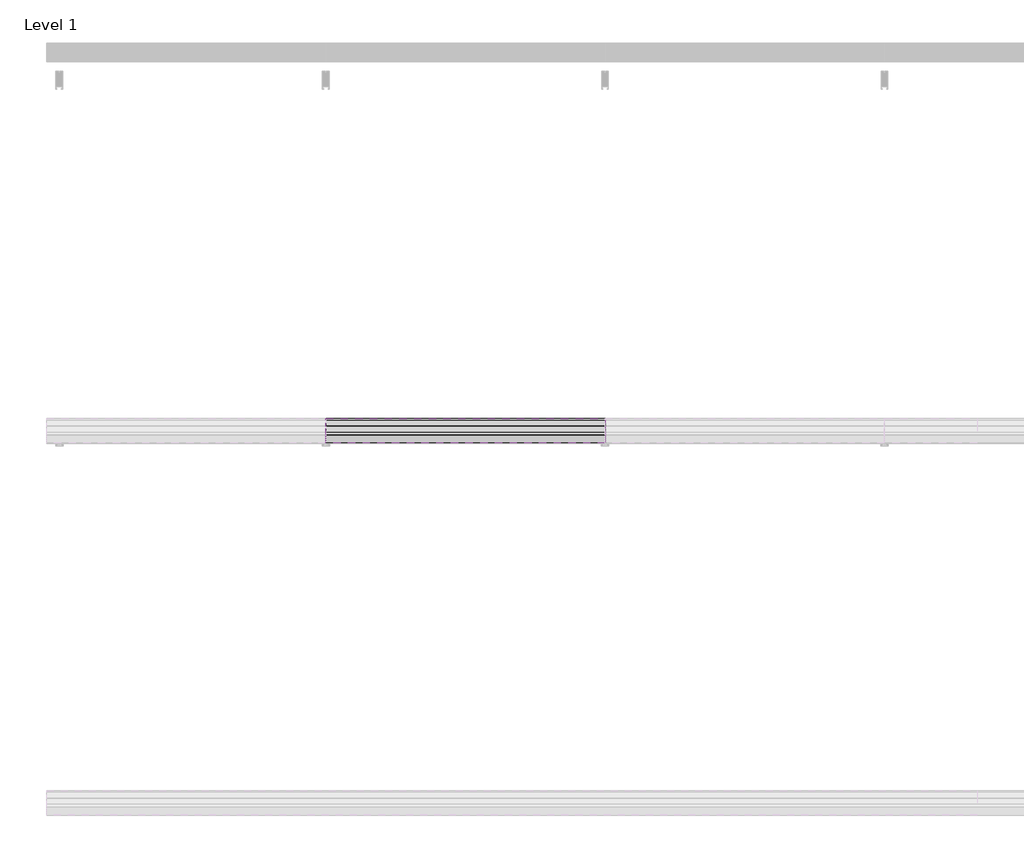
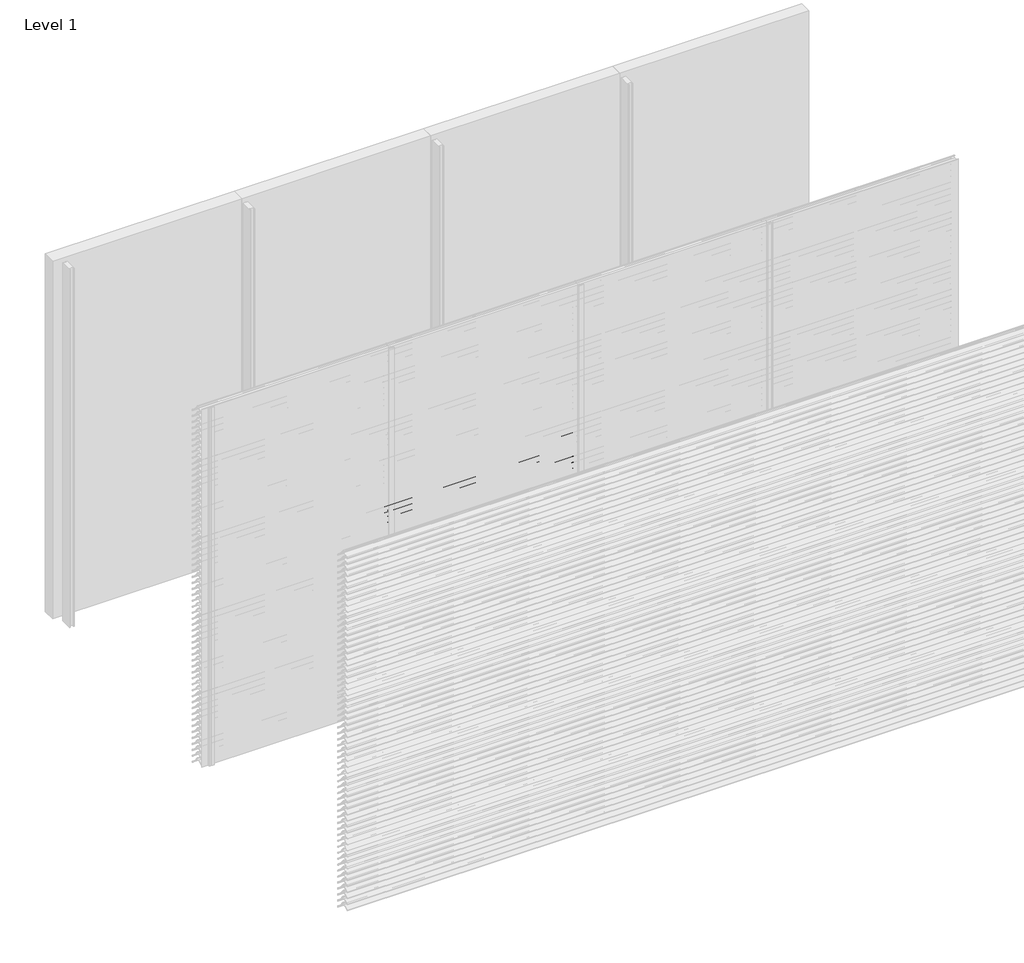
# One storey, part 97 of 173: 17 proxies.
"""IFC4 building model written with IfcOpenShell, lengths in millimetres."""

from ifc_helpers import new_model, si_unit, point, frame, frame_2d, origin, place, context, project, spatial, polyline, circle_curve, trimmed, segment, composite_curve, outline, extrude, element, save

model = new_model("IFC4")

# Units and contexts
model_context = context("Model", 3, world=origin())
ifc_project = project(units=[si_unit("LENGTHUNIT", "METRE", prefix="MILLI")], contexts=[model_context])

# Site, building, storey
site = spatial("IfcSite", under=ifc_project)
building = spatial("IfcBuilding", under=site)
storey = spatial("IfcBuildingStorey", under=building, Name="Level 1", Elevation=0.0)

# Proxies
placement = place(None, origin())
element("IfcBuildingElementProxy", 1, Name="Wall Sweeps", at=placement, inside=storey, context=model_context, shape_type="SweptSolid", body=[
    extrude(outline(composite_curve([segment(polyline([(-23998.0, 1709.1474905), (-23998.0, 1711.6227417)]), True, "CONTINUOUS"), segment(trimmed(circle_curve(frame_2d((-23951.2682172, 1666.2200208)), 65.1557103), [point((-23998.0, 1711.6227417))], [point((-23954.4014323, 1731.3003524))], False, "CARTESIAN"), True, "CONTINUOUS"), segment(polyline([(-23954.4014323, 1731.3003524), (-23934.8315836, 1731.3003524)]), True, "CONTINUOUS"), segment(trimmed(circle_curve(frame_2d((-23732.7329489, 1878.5533172)), 250.0545817), [point((-23934.8315836, 1731.3003524))], [point((-23941.4452143, 1740.8344583))], False, "CARTESIAN"), True, "CONTINUOUS"), segment(trimmed(circle_curve(frame_2d((-23953.2981792, 1735.1737835)), 13.1352966), [point((-23941.4452143, 1740.8344583))], [point((-23953.8171475, 1748.298824))], True, "CARTESIAN"), True, "CONTINUOUS"), segment(polyline([(-23953.8171475, 1748.298824), (-23953.8171475, 1750.0)]), True, "CONTINUOUS"), segment(trimmed(circle_curve(frame_2d((-23953.2981792, 1735.1737835)), 14.8352966), [point((-23953.8171475, 1750.0))], [point((-23939.9637661, 1741.6760487))], False, "CARTESIAN"), True, "CONTINUOUS"), segment(trimmed(circle_curve(frame_2d((-23732.7329489, 1878.5533172)), 248.3545817), [point((-23939.9637661, 1741.6760487))], [point((-23873.8787895, 1674.2059416))], True, "CARTESIAN"), True, "CONTINUOUS"), segment(trimmed(circle_curve(frame_2d((-23883.8147537, 1661.6649442)), 16.0), [point((-23873.8787895, 1674.2059416))], [point((-23867.8648347, 1660.4))], False, "CARTESIAN"), True, "CONTINUOUS"), segment(polyline([(-23867.8648347, 1660.4), (-23869.6712069, 1660.4)]), True, "CONTINUOUS"), segment(trimmed(circle_curve(frame_2d((-23883.8147537, 1661.6649442)), 14.2), [point((-23869.6712069, 1660.4))], [point((-23874.9518628, 1672.7594998))], True, "CARTESIAN"), True, "CONTINUOUS"), segment(trimmed(circle_curve(frame_2d((-23732.7329489, 1878.5533172)), 250.1545817), [point((-23874.9518628, 1672.7594998))], [point((-23933.7064024, 1729.6003524))], False, "CARTESIAN"), True, "CONTINUOUS"), segment(polyline([(-23933.7064024, 1729.6003524), (-23954.3602632, 1729.6003524)]), True, "CONTINUOUS"), segment(trimmed(circle_curve(frame_2d((-23951.2682172, 1666.2200208)), 63.4557103), [point((-23954.3602632, 1729.6003524))], [point((-23998.0, 1709.1474905))], True, "CARTESIAN"), True, "CONTINUOUS")], self_intersect=False)), frame((1500.0, 0.0, 0.0), z_axis=(1.0, 0.0, 0.0), x_axis=(0.0, 1.0, 0.0)), (0.0, 0.0, 1.0), 1500.0),
])
element("IfcBuildingElementProxy", 2, Name="Wall Sweeps", at=placement, inside=storey, context=model_context, shape_type="SweptSolid", body=[
    extrude(outline(composite_curve([segment(polyline([(-23998.0, 1659.1474905), (-23998.0, 1661.6227417)]), True, "CONTINUOUS"), segment(trimmed(circle_curve(frame_2d((-23951.2682172, 1616.2200208)), 65.1557103), [point((-23998.0, 1661.6227417))], [point((-23954.4014323, 1681.3003524))], False, "CARTESIAN"), True, "CONTINUOUS"), segment(polyline([(-23954.4014323, 1681.3003524), (-23934.8315836, 1681.3003524)]), True, "CONTINUOUS"), segment(trimmed(circle_curve(frame_2d((-23732.7329489, 1828.5533172)), 250.0545817), [point((-23934.8315836, 1681.3003524))], [point((-23941.4452143, 1690.8344583))], False, "CARTESIAN"), True, "CONTINUOUS"), segment(trimmed(circle_curve(frame_2d((-23953.2981792, 1685.1737835)), 13.1352966), [point((-23941.4452143, 1690.8344583))], [point((-23953.8171475, 1698.298824))], True, "CARTESIAN"), True, "CONTINUOUS"), segment(polyline([(-23953.8171475, 1698.298824), (-23953.8171475, 1700.0)]), True, "CONTINUOUS"), segment(trimmed(circle_curve(frame_2d((-23953.2981792, 1685.1737835)), 14.8352966), [point((-23953.8171475, 1700.0))], [point((-23939.9637661, 1691.6760487))], False, "CARTESIAN"), True, "CONTINUOUS"), segment(trimmed(circle_curve(frame_2d((-23732.7329489, 1828.5533172)), 248.3545817), [point((-23939.9637661, 1691.6760487))], [point((-23873.8787895, 1624.2059416))], True, "CARTESIAN"), True, "CONTINUOUS"), segment(trimmed(circle_curve(frame_2d((-23883.8147537, 1611.6649442)), 16.0), [point((-23873.8787895, 1624.2059416))], [point((-23867.8648347, 1610.4))], False, "CARTESIAN"), True, "CONTINUOUS"), segment(polyline([(-23867.8648347, 1610.4), (-23869.6712069, 1610.4)]), True, "CONTINUOUS"), segment(trimmed(circle_curve(frame_2d((-23883.8147537, 1611.6649442)), 14.2), [point((-23869.6712069, 1610.4))], [point((-23874.9518628, 1622.7594998))], True, "CARTESIAN"), True, "CONTINUOUS"), segment(trimmed(circle_curve(frame_2d((-23732.7329489, 1828.5533172)), 250.1545817), [point((-23874.9518628, 1622.7594998))], [point((-23933.7064024, 1679.6003524))], False, "CARTESIAN"), True, "CONTINUOUS"), segment(polyline([(-23933.7064024, 1679.6003524), (-23954.3602632, 1679.6003524)]), True, "CONTINUOUS"), segment(trimmed(circle_curve(frame_2d((-23951.2682172, 1616.2200208)), 63.4557103), [point((-23954.3602632, 1679.6003524))], [point((-23998.0, 1659.1474905))], True, "CARTESIAN"), True, "CONTINUOUS")], self_intersect=False)), frame((1500.0, 0.0, 0.0), z_axis=(1.0, 0.0, 0.0), x_axis=(0.0, 1.0, 0.0)), (0.0, 0.0, 1.0), 1500.0),
])
element("IfcBuildingElementProxy", 3, Name="Wall Sweeps", at=placement, inside=storey, context=model_context, shape_type="SweptSolid", body=[
    extrude(outline(composite_curve([segment(polyline([(-23998.0, 1609.1474905), (-23998.0, 1611.6227417)]), True, "CONTINUOUS"), segment(trimmed(circle_curve(frame_2d((-23951.2682172, 1566.2200208)), 65.1557103), [point((-23998.0, 1611.6227417))], [point((-23954.4014323, 1631.3003524))], False, "CARTESIAN"), True, "CONTINUOUS"), segment(polyline([(-23954.4014323, 1631.3003524), (-23934.8315836, 1631.3003524)]), True, "CONTINUOUS"), segment(trimmed(circle_curve(frame_2d((-23732.7329489, 1778.5533172)), 250.0545817), [point((-23934.8315836, 1631.3003524))], [point((-23941.4452143, 1640.8344583))], False, "CARTESIAN"), True, "CONTINUOUS"), segment(trimmed(circle_curve(frame_2d((-23953.2981792, 1635.1737835)), 13.1352966), [point((-23941.4452143, 1640.8344583))], [point((-23953.8171475, 1648.298824))], True, "CARTESIAN"), True, "CONTINUOUS"), segment(polyline([(-23953.8171475, 1648.298824), (-23953.8171475, 1650.0)]), True, "CONTINUOUS"), segment(trimmed(circle_curve(frame_2d((-23953.2981792, 1635.1737835)), 14.8352966), [point((-23953.8171475, 1650.0))], [point((-23939.9637661, 1641.6760487))], False, "CARTESIAN"), True, "CONTINUOUS"), segment(trimmed(circle_curve(frame_2d((-23732.7329489, 1778.5533172)), 248.3545817), [point((-23939.9637661, 1641.6760487))], [point((-23873.8787895, 1574.2059416))], True, "CARTESIAN"), True, "CONTINUOUS"), segment(trimmed(circle_curve(frame_2d((-23883.8147537, 1561.6649442)), 16.0), [point((-23873.8787895, 1574.2059416))], [point((-23867.8648347, 1560.4))], False, "CARTESIAN"), True, "CONTINUOUS"), segment(polyline([(-23867.8648347, 1560.4), (-23869.6712069, 1560.4)]), True, "CONTINUOUS"), segment(trimmed(circle_curve(frame_2d((-23883.8147537, 1561.6649442)), 14.2), [point((-23869.6712069, 1560.4))], [point((-23874.9518628, 1572.7594998))], True, "CARTESIAN"), True, "CONTINUOUS"), segment(trimmed(circle_curve(frame_2d((-23732.7329489, 1778.5533172)), 250.1545817), [point((-23874.9518628, 1572.7594998))], [point((-23933.7064024, 1629.6003524))], False, "CARTESIAN"), True, "CONTINUOUS"), segment(polyline([(-23933.7064024, 1629.6003524), (-23954.3602632, 1629.6003524)]), True, "CONTINUOUS"), segment(trimmed(circle_curve(frame_2d((-23951.2682172, 1566.2200208)), 63.4557103), [point((-23954.3602632, 1629.6003524))], [point((-23998.0, 1609.1474905))], True, "CARTESIAN"), True, "CONTINUOUS")], self_intersect=False)), frame((1500.0, 0.0, 0.0), z_axis=(1.0, 0.0, 0.0), x_axis=(0.0, 1.0, 0.0)), (0.0, 0.0, 1.0), 1500.0),
])
element("IfcBuildingElementProxy", 4, Name="Wall Sweeps", at=placement, inside=storey, context=model_context, shape_type="SweptSolid", body=[
    extrude(outline(composite_curve([segment(polyline([(-23998.0, 1559.1474905), (-23998.0, 1561.6227417)]), True, "CONTINUOUS"), segment(trimmed(circle_curve(frame_2d((-23951.2682172, 1516.2200208)), 65.1557103), [point((-23998.0, 1561.6227417))], [point((-23954.4014323, 1581.3003524))], False, "CARTESIAN"), True, "CONTINUOUS"), segment(polyline([(-23954.4014323, 1581.3003524), (-23934.8315836, 1581.3003524)]), True, "CONTINUOUS"), segment(trimmed(circle_curve(frame_2d((-23732.7329489, 1728.5533172)), 250.0545817), [point((-23934.8315836, 1581.3003524))], [point((-23941.4452143, 1590.8344583))], False, "CARTESIAN"), True, "CONTINUOUS"), segment(trimmed(circle_curve(frame_2d((-23953.2981792, 1585.1737835)), 13.1352966), [point((-23941.4452143, 1590.8344583))], [point((-23953.8171475, 1598.298824))], True, "CARTESIAN"), True, "CONTINUOUS"), segment(polyline([(-23953.8171475, 1598.298824), (-23953.8171475, 1600.0)]), True, "CONTINUOUS"), segment(trimmed(circle_curve(frame_2d((-23953.2981792, 1585.1737835)), 14.8352966), [point((-23953.8171475, 1600.0))], [point((-23939.9637661, 1591.6760487))], False, "CARTESIAN"), True, "CONTINUOUS"), segment(trimmed(circle_curve(frame_2d((-23732.7329489, 1728.5533172)), 248.3545817), [point((-23939.9637661, 1591.6760487))], [point((-23873.8787895, 1524.2059416))], True, "CARTESIAN"), True, "CONTINUOUS"), segment(trimmed(circle_curve(frame_2d((-23883.8147537, 1511.6649442)), 16.0), [point((-23873.8787895, 1524.2059416))], [point((-23867.8648347, 1510.4))], False, "CARTESIAN"), True, "CONTINUOUS"), segment(polyline([(-23867.8648347, 1510.4), (-23869.6712069, 1510.4)]), True, "CONTINUOUS"), segment(trimmed(circle_curve(frame_2d((-23883.8147537, 1511.6649442)), 14.2), [point((-23869.6712069, 1510.4))], [point((-23874.9518628, 1522.7594998))], True, "CARTESIAN"), True, "CONTINUOUS"), segment(trimmed(circle_curve(frame_2d((-23732.7329489, 1728.5533172)), 250.1545817), [point((-23874.9518628, 1522.7594998))], [point((-23933.7064024, 1579.6003524))], False, "CARTESIAN"), True, "CONTINUOUS"), segment(polyline([(-23933.7064024, 1579.6003524), (-23954.3602632, 1579.6003524)]), True, "CONTINUOUS"), segment(trimmed(circle_curve(frame_2d((-23951.2682172, 1516.2200208)), 63.4557103), [point((-23954.3602632, 1579.6003524))], [point((-23998.0, 1559.1474905))], True, "CARTESIAN"), True, "CONTINUOUS")], self_intersect=False)), frame((1500.0, 0.0, 0.0), z_axis=(1.0, 0.0, 0.0), x_axis=(0.0, 1.0, 0.0)), (0.0, 0.0, 1.0), 1500.0),
])
element("IfcBuildingElementProxy", 5, Name="Wall Sweeps", at=placement, inside=storey, context=model_context, shape_type="SweptSolid", body=[
    extrude(outline(composite_curve([segment(polyline([(-23998.0, 1509.1474905), (-23998.0, 1511.6227417)]), True, "CONTINUOUS"), segment(trimmed(circle_curve(frame_2d((-23951.2682172, 1466.2200208)), 65.1557103), [point((-23998.0, 1511.6227417))], [point((-23954.4014323, 1531.3003524))], False, "CARTESIAN"), True, "CONTINUOUS"), segment(polyline([(-23954.4014323, 1531.3003524), (-23934.8315836, 1531.3003524)]), True, "CONTINUOUS"), segment(trimmed(circle_curve(frame_2d((-23732.7329489, 1678.5533172)), 250.0545817), [point((-23934.8315836, 1531.3003524))], [point((-23941.4452143, 1540.8344583))], False, "CARTESIAN"), True, "CONTINUOUS"), segment(trimmed(circle_curve(frame_2d((-23953.2981792, 1535.1737835)), 13.1352966), [point((-23941.4452143, 1540.8344583))], [point((-23953.8171475, 1548.298824))], True, "CARTESIAN"), True, "CONTINUOUS"), segment(polyline([(-23953.8171475, 1548.298824), (-23953.8171475, 1550.0)]), True, "CONTINUOUS"), segment(trimmed(circle_curve(frame_2d((-23953.2981792, 1535.1737835)), 14.8352966), [point((-23953.8171475, 1550.0))], [point((-23939.9637661, 1541.6760487))], False, "CARTESIAN"), True, "CONTINUOUS"), segment(trimmed(circle_curve(frame_2d((-23732.7329489, 1678.5533172)), 248.3545817), [point((-23939.9637661, 1541.6760487))], [point((-23873.8787895, 1474.2059416))], True, "CARTESIAN"), True, "CONTINUOUS"), segment(trimmed(circle_curve(frame_2d((-23883.8147537, 1461.6649442)), 16.0), [point((-23873.8787895, 1474.2059416))], [point((-23867.8648347, 1460.4))], False, "CARTESIAN"), True, "CONTINUOUS"), segment(polyline([(-23867.8648347, 1460.4), (-23869.6712069, 1460.4)]), True, "CONTINUOUS"), segment(trimmed(circle_curve(frame_2d((-23883.8147537, 1461.6649442)), 14.2), [point((-23869.6712069, 1460.4))], [point((-23874.9518628, 1472.7594998))], True, "CARTESIAN"), True, "CONTINUOUS"), segment(trimmed(circle_curve(frame_2d((-23732.7329489, 1678.5533172)), 250.1545817), [point((-23874.9518628, 1472.7594998))], [point((-23933.7064024, 1529.6003524))], False, "CARTESIAN"), True, "CONTINUOUS"), segment(polyline([(-23933.7064024, 1529.6003524), (-23954.3602632, 1529.6003524)]), True, "CONTINUOUS"), segment(trimmed(circle_curve(frame_2d((-23951.2682172, 1466.2200208)), 63.4557103), [point((-23954.3602632, 1529.6003524))], [point((-23998.0, 1509.1474905))], True, "CARTESIAN"), True, "CONTINUOUS")], self_intersect=False)), frame((1500.0, 0.0, 0.0), z_axis=(1.0, 0.0, 0.0), x_axis=(0.0, 1.0, 0.0)), (0.0, 0.0, 1.0), 1500.0),
])
element("IfcBuildingElementProxy", 6, Name="Wall Sweeps", at=placement, inside=storey, context=model_context, shape_type="SweptSolid", body=[
    extrude(outline(composite_curve([segment(polyline([(-23998.0, 1459.1474905), (-23998.0, 1461.6227417)]), True, "CONTINUOUS"), segment(trimmed(circle_curve(frame_2d((-23951.2682172, 1416.2200208)), 65.1557103), [point((-23998.0, 1461.6227417))], [point((-23954.4014323, 1481.3003524))], False, "CARTESIAN"), True, "CONTINUOUS"), segment(polyline([(-23954.4014323, 1481.3003524), (-23934.8315836, 1481.3003524)]), True, "CONTINUOUS"), segment(trimmed(circle_curve(frame_2d((-23732.7329489, 1628.5533172)), 250.0545817), [point((-23934.8315836, 1481.3003524))], [point((-23941.4452143, 1490.8344583))], False, "CARTESIAN"), True, "CONTINUOUS"), segment(trimmed(circle_curve(frame_2d((-23953.2981792, 1485.1737835)), 13.1352966), [point((-23941.4452143, 1490.8344583))], [point((-23953.8171475, 1498.298824))], True, "CARTESIAN"), True, "CONTINUOUS"), segment(polyline([(-23953.8171475, 1498.298824), (-23953.8171475, 1500.0)]), True, "CONTINUOUS"), segment(trimmed(circle_curve(frame_2d((-23953.2981792, 1485.1737835)), 14.8352966), [point((-23953.8171475, 1500.0))], [point((-23939.9637661, 1491.6760487))], False, "CARTESIAN"), True, "CONTINUOUS"), segment(trimmed(circle_curve(frame_2d((-23732.7329489, 1628.5533172)), 248.3545817), [point((-23939.9637661, 1491.6760487))], [point((-23873.8787895, 1424.2059416))], True, "CARTESIAN"), True, "CONTINUOUS"), segment(trimmed(circle_curve(frame_2d((-23883.8147537, 1411.6649442)), 16.0), [point((-23873.8787895, 1424.2059416))], [point((-23867.8648347, 1410.4))], False, "CARTESIAN"), True, "CONTINUOUS"), segment(polyline([(-23867.8648347, 1410.4), (-23869.6712069, 1410.4)]), True, "CONTINUOUS"), segment(trimmed(circle_curve(frame_2d((-23883.8147537, 1411.6649442)), 14.2), [point((-23869.6712069, 1410.4))], [point((-23874.9518628, 1422.7594998))], True, "CARTESIAN"), True, "CONTINUOUS"), segment(trimmed(circle_curve(frame_2d((-23732.7329489, 1628.5533172)), 250.1545817), [point((-23874.9518628, 1422.7594998))], [point((-23933.7064024, 1479.6003524))], False, "CARTESIAN"), True, "CONTINUOUS"), segment(polyline([(-23933.7064024, 1479.6003524), (-23954.3602632, 1479.6003524)]), True, "CONTINUOUS"), segment(trimmed(circle_curve(frame_2d((-23951.2682172, 1416.2200208)), 63.4557103), [point((-23954.3602632, 1479.6003524))], [point((-23998.0, 1459.1474905))], True, "CARTESIAN"), True, "CONTINUOUS")], self_intersect=False)), frame((1500.0, 0.0, 0.0), z_axis=(1.0, 0.0, 0.0), x_axis=(0.0, 1.0, 0.0)), (0.0, 0.0, 1.0), 1500.0),
])
element("IfcBuildingElementProxy", 7, Name="Wall Sweeps", at=placement, inside=storey, context=model_context, shape_type="SweptSolid", body=[
    extrude(outline(composite_curve([segment(polyline([(-23998.0, 1409.1474905), (-23998.0, 1411.6227417)]), True, "CONTINUOUS"), segment(trimmed(circle_curve(frame_2d((-23951.2682172, 1366.2200208)), 65.1557103), [point((-23998.0, 1411.6227417))], [point((-23954.4014323, 1431.3003524))], False, "CARTESIAN"), True, "CONTINUOUS"), segment(polyline([(-23954.4014323, 1431.3003524), (-23934.8315836, 1431.3003524)]), True, "CONTINUOUS"), segment(trimmed(circle_curve(frame_2d((-23732.7329489, 1578.5533172)), 250.0545817), [point((-23934.8315836, 1431.3003524))], [point((-23941.4452143, 1440.8344583))], False, "CARTESIAN"), True, "CONTINUOUS"), segment(trimmed(circle_curve(frame_2d((-23953.2981792, 1435.1737835)), 13.1352966), [point((-23941.4452143, 1440.8344583))], [point((-23953.8171475, 1448.298824))], True, "CARTESIAN"), True, "CONTINUOUS"), segment(polyline([(-23953.8171475, 1448.298824), (-23953.8171475, 1450.0)]), True, "CONTINUOUS"), segment(trimmed(circle_curve(frame_2d((-23953.2981792, 1435.1737835)), 14.8352966), [point((-23953.8171475, 1450.0))], [point((-23939.9637661, 1441.6760487))], False, "CARTESIAN"), True, "CONTINUOUS"), segment(trimmed(circle_curve(frame_2d((-23732.7329489, 1578.5533172)), 248.3545817), [point((-23939.9637661, 1441.6760487))], [point((-23873.8787895, 1374.2059416))], True, "CARTESIAN"), True, "CONTINUOUS"), segment(trimmed(circle_curve(frame_2d((-23883.8147537, 1361.6649442)), 16.0), [point((-23873.8787895, 1374.2059416))], [point((-23867.8648347, 1360.4))], False, "CARTESIAN"), True, "CONTINUOUS"), segment(polyline([(-23867.8648347, 1360.4), (-23869.6712069, 1360.4)]), True, "CONTINUOUS"), segment(trimmed(circle_curve(frame_2d((-23883.8147537, 1361.6649442)), 14.2), [point((-23869.6712069, 1360.4))], [point((-23874.9518628, 1372.7594998))], True, "CARTESIAN"), True, "CONTINUOUS"), segment(trimmed(circle_curve(frame_2d((-23732.7329489, 1578.5533172)), 250.1545817), [point((-23874.9518628, 1372.7594998))], [point((-23933.7064024, 1429.6003524))], False, "CARTESIAN"), True, "CONTINUOUS"), segment(polyline([(-23933.7064024, 1429.6003524), (-23954.3602632, 1429.6003524)]), True, "CONTINUOUS"), segment(trimmed(circle_curve(frame_2d((-23951.2682172, 1366.2200208)), 63.4557103), [point((-23954.3602632, 1429.6003524))], [point((-23998.0, 1409.1474905))], True, "CARTESIAN"), True, "CONTINUOUS")], self_intersect=False)), frame((1500.0, 0.0, 0.0), z_axis=(1.0, 0.0, 0.0), x_axis=(0.0, 1.0, 0.0)), (0.0, 0.0, 1.0), 1500.0),
])
element("IfcBuildingElementProxy", 8, Name="Wall Sweeps", at=placement, inside=storey, context=model_context, shape_type="SweptSolid", body=[
    extrude(outline(composite_curve([segment(polyline([(-23998.0, 1359.1474905), (-23998.0, 1361.6227417)]), True, "CONTINUOUS"), segment(trimmed(circle_curve(frame_2d((-23951.2682172, 1316.2200208)), 65.1557103), [point((-23998.0, 1361.6227417))], [point((-23954.4014323, 1381.3003524))], False, "CARTESIAN"), True, "CONTINUOUS"), segment(polyline([(-23954.4014323, 1381.3003524), (-23934.8315836, 1381.3003524)]), True, "CONTINUOUS"), segment(trimmed(circle_curve(frame_2d((-23732.7329489, 1528.5533172)), 250.0545817), [point((-23934.8315836, 1381.3003524))], [point((-23941.4452143, 1390.8344583))], False, "CARTESIAN"), True, "CONTINUOUS"), segment(trimmed(circle_curve(frame_2d((-23953.2981792, 1385.1737835)), 13.1352966), [point((-23941.4452143, 1390.8344583))], [point((-23953.8171475, 1398.298824))], True, "CARTESIAN"), True, "CONTINUOUS"), segment(polyline([(-23953.8171475, 1398.298824), (-23953.8171475, 1400.0)]), True, "CONTINUOUS"), segment(trimmed(circle_curve(frame_2d((-23953.2981792, 1385.1737835)), 14.8352966), [point((-23953.8171475, 1400.0))], [point((-23939.9637661, 1391.6760487))], False, "CARTESIAN"), True, "CONTINUOUS"), segment(trimmed(circle_curve(frame_2d((-23732.7329489, 1528.5533172)), 248.3545817), [point((-23939.9637661, 1391.6760487))], [point((-23873.8787895, 1324.2059416))], True, "CARTESIAN"), True, "CONTINUOUS"), segment(trimmed(circle_curve(frame_2d((-23883.8147537, 1311.6649442)), 16.0), [point((-23873.8787895, 1324.2059416))], [point((-23867.8648347, 1310.4))], False, "CARTESIAN"), True, "CONTINUOUS"), segment(polyline([(-23867.8648347, 1310.4), (-23869.6712069, 1310.4)]), True, "CONTINUOUS"), segment(trimmed(circle_curve(frame_2d((-23883.8147537, 1311.6649442)), 14.2), [point((-23869.6712069, 1310.4))], [point((-23874.9518628, 1322.7594998))], True, "CARTESIAN"), True, "CONTINUOUS"), segment(trimmed(circle_curve(frame_2d((-23732.7329489, 1528.5533172)), 250.1545817), [point((-23874.9518628, 1322.7594998))], [point((-23933.7064024, 1379.6003524))], False, "CARTESIAN"), True, "CONTINUOUS"), segment(polyline([(-23933.7064024, 1379.6003524), (-23954.3602632, 1379.6003524)]), True, "CONTINUOUS"), segment(trimmed(circle_curve(frame_2d((-23951.2682172, 1316.2200208)), 63.4557103), [point((-23954.3602632, 1379.6003524))], [point((-23998.0, 1359.1474905))], True, "CARTESIAN"), True, "CONTINUOUS")], self_intersect=False)), frame((1500.0, 0.0, 0.0), z_axis=(1.0, 0.0, 0.0), x_axis=(0.0, 1.0, 0.0)), (0.0, 0.0, 1.0), 1500.0),
])
element("IfcBuildingElementProxy", 9, Name="Wall Sweeps", at=placement, inside=storey, context=model_context, shape_type="SweptSolid", body=[
    extrude(outline(composite_curve([segment(polyline([(-23998.0, 1309.1474905), (-23998.0, 1311.6227417)]), True, "CONTINUOUS"), segment(trimmed(circle_curve(frame_2d((-23951.2682172, 1266.2200208)), 65.1557103), [point((-23998.0, 1311.6227417))], [point((-23954.4014323, 1331.3003524))], False, "CARTESIAN"), True, "CONTINUOUS"), segment(polyline([(-23954.4014323, 1331.3003524), (-23934.8315836, 1331.3003524)]), True, "CONTINUOUS"), segment(trimmed(circle_curve(frame_2d((-23732.7329489, 1478.5533172)), 250.0545817), [point((-23934.8315836, 1331.3003524))], [point((-23941.4452143, 1340.8344583))], False, "CARTESIAN"), True, "CONTINUOUS"), segment(trimmed(circle_curve(frame_2d((-23953.2981792, 1335.1737835)), 13.1352966), [point((-23941.4452143, 1340.8344583))], [point((-23953.8171475, 1348.298824))], True, "CARTESIAN"), True, "CONTINUOUS"), segment(polyline([(-23953.8171475, 1348.298824), (-23953.8171475, 1350.0)]), True, "CONTINUOUS"), segment(trimmed(circle_curve(frame_2d((-23953.2981792, 1335.1737835)), 14.8352966), [point((-23953.8171475, 1350.0))], [point((-23939.9637661, 1341.6760487))], False, "CARTESIAN"), True, "CONTINUOUS"), segment(trimmed(circle_curve(frame_2d((-23732.7329489, 1478.5533172)), 248.3545817), [point((-23939.9637661, 1341.6760487))], [point((-23873.8787895, 1274.2059416))], True, "CARTESIAN"), True, "CONTINUOUS"), segment(trimmed(circle_curve(frame_2d((-23883.8147537, 1261.6649442)), 16.0), [point((-23873.8787895, 1274.2059416))], [point((-23867.8648347, 1260.4))], False, "CARTESIAN"), True, "CONTINUOUS"), segment(polyline([(-23867.8648347, 1260.4), (-23869.6712069, 1260.4)]), True, "CONTINUOUS"), segment(trimmed(circle_curve(frame_2d((-23883.8147537, 1261.6649442)), 14.2), [point((-23869.6712069, 1260.4))], [point((-23874.9518628, 1272.7594998))], True, "CARTESIAN"), True, "CONTINUOUS"), segment(trimmed(circle_curve(frame_2d((-23732.7329489, 1478.5533172)), 250.1545817), [point((-23874.9518628, 1272.7594998))], [point((-23933.7064024, 1329.6003524))], False, "CARTESIAN"), True, "CONTINUOUS"), segment(polyline([(-23933.7064024, 1329.6003524), (-23954.3602632, 1329.6003524)]), True, "CONTINUOUS"), segment(trimmed(circle_curve(frame_2d((-23951.2682172, 1266.2200208)), 63.4557103), [point((-23954.3602632, 1329.6003524))], [point((-23998.0, 1309.1474905))], True, "CARTESIAN"), True, "CONTINUOUS")], self_intersect=False)), frame((1500.0, 0.0, 0.0), z_axis=(1.0, 0.0, 0.0), x_axis=(0.0, 1.0, 0.0)), (0.0, 0.0, 1.0), 1500.0),
])
element("IfcBuildingElementProxy", 10, Name="Wall Sweeps", at=placement, inside=storey, context=model_context, shape_type="SweptSolid", body=[
    extrude(outline(composite_curve([segment(polyline([(-23998.0, 1259.1474905), (-23998.0, 1261.6227417)]), True, "CONTINUOUS"), segment(trimmed(circle_curve(frame_2d((-23951.2682172, 1216.2200208)), 65.1557103), [point((-23998.0, 1261.6227417))], [point((-23954.4014323, 1281.3003524))], False, "CARTESIAN"), True, "CONTINUOUS"), segment(polyline([(-23954.4014323, 1281.3003524), (-23934.8315836, 1281.3003524)]), True, "CONTINUOUS"), segment(trimmed(circle_curve(frame_2d((-23732.7329489, 1428.5533172)), 250.0545817), [point((-23934.8315836, 1281.3003524))], [point((-23941.4452143, 1290.8344583))], False, "CARTESIAN"), True, "CONTINUOUS"), segment(trimmed(circle_curve(frame_2d((-23953.2981792, 1285.1737835)), 13.1352966), [point((-23941.4452143, 1290.8344583))], [point((-23953.8171475, 1298.298824))], True, "CARTESIAN"), True, "CONTINUOUS"), segment(polyline([(-23953.8171475, 1298.298824), (-23953.8171475, 1300.0)]), True, "CONTINUOUS"), segment(trimmed(circle_curve(frame_2d((-23953.2981792, 1285.1737835)), 14.8352966), [point((-23953.8171475, 1300.0))], [point((-23939.9637661, 1291.6760487))], False, "CARTESIAN"), True, "CONTINUOUS"), segment(trimmed(circle_curve(frame_2d((-23732.7329489, 1428.5533172)), 248.3545817), [point((-23939.9637661, 1291.6760487))], [point((-23873.8787895, 1224.2059416))], True, "CARTESIAN"), True, "CONTINUOUS"), segment(trimmed(circle_curve(frame_2d((-23883.8147537, 1211.6649442)), 16.0), [point((-23873.8787895, 1224.2059416))], [point((-23867.8648347, 1210.4))], False, "CARTESIAN"), True, "CONTINUOUS"), segment(polyline([(-23867.8648347, 1210.4), (-23869.6712069, 1210.4)]), True, "CONTINUOUS"), segment(trimmed(circle_curve(frame_2d((-23883.8147537, 1211.6649442)), 14.2), [point((-23869.6712069, 1210.4))], [point((-23874.9518628, 1222.7594998))], True, "CARTESIAN"), True, "CONTINUOUS"), segment(trimmed(circle_curve(frame_2d((-23732.7329489, 1428.5533172)), 250.1545817), [point((-23874.9518628, 1222.7594998))], [point((-23933.7064024, 1279.6003524))], False, "CARTESIAN"), True, "CONTINUOUS"), segment(polyline([(-23933.7064024, 1279.6003524), (-23954.3602632, 1279.6003524)]), True, "CONTINUOUS"), segment(trimmed(circle_curve(frame_2d((-23951.2682172, 1216.2200208)), 63.4557103), [point((-23954.3602632, 1279.6003524))], [point((-23998.0, 1259.1474905))], True, "CARTESIAN"), True, "CONTINUOUS")], self_intersect=False)), frame((1500.0, 0.0, 0.0), z_axis=(1.0, 0.0, 0.0), x_axis=(0.0, 1.0, 0.0)), (0.0, 0.0, 1.0), 1500.0),
])
element("IfcBuildingElementProxy", 11, Name="Wall Sweeps", at=placement, inside=storey, context=model_context, shape_type="SweptSolid", body=[
    extrude(outline(composite_curve([segment(polyline([(-23998.0, 1209.1474905), (-23998.0, 1211.6227417)]), True, "CONTINUOUS"), segment(trimmed(circle_curve(frame_2d((-23951.2682172, 1166.2200208)), 65.1557103), [point((-23998.0, 1211.6227417))], [point((-23954.4014323, 1231.3003524))], False, "CARTESIAN"), True, "CONTINUOUS"), segment(polyline([(-23954.4014323, 1231.3003524), (-23934.8315836, 1231.3003524)]), True, "CONTINUOUS"), segment(trimmed(circle_curve(frame_2d((-23732.7329489, 1378.5533172)), 250.0545817), [point((-23934.8315836, 1231.3003524))], [point((-23941.4452143, 1240.8344583))], False, "CARTESIAN"), True, "CONTINUOUS"), segment(trimmed(circle_curve(frame_2d((-23953.2981792, 1235.1737835)), 13.1352966), [point((-23941.4452143, 1240.8344583))], [point((-23953.8171475, 1248.298824))], True, "CARTESIAN"), True, "CONTINUOUS"), segment(polyline([(-23953.8171475, 1248.298824), (-23953.8171475, 1250.0)]), True, "CONTINUOUS"), segment(trimmed(circle_curve(frame_2d((-23953.2981792, 1235.1737835)), 14.8352966), [point((-23953.8171475, 1250.0))], [point((-23939.9637661, 1241.6760487))], False, "CARTESIAN"), True, "CONTINUOUS"), segment(trimmed(circle_curve(frame_2d((-23732.7329489, 1378.5533172)), 248.3545817), [point((-23939.9637661, 1241.6760487))], [point((-23873.8787895, 1174.2059416))], True, "CARTESIAN"), True, "CONTINUOUS"), segment(trimmed(circle_curve(frame_2d((-23883.8147537, 1161.6649442)), 16.0), [point((-23873.8787895, 1174.2059416))], [point((-23867.8648347, 1160.4))], False, "CARTESIAN"), True, "CONTINUOUS"), segment(polyline([(-23867.8648347, 1160.4), (-23869.6712069, 1160.4)]), True, "CONTINUOUS"), segment(trimmed(circle_curve(frame_2d((-23883.8147537, 1161.6649442)), 14.2), [point((-23869.6712069, 1160.4))], [point((-23874.9518628, 1172.7594998))], True, "CARTESIAN"), True, "CONTINUOUS"), segment(trimmed(circle_curve(frame_2d((-23732.7329489, 1378.5533172)), 250.1545817), [point((-23874.9518628, 1172.7594998))], [point((-23933.7064024, 1229.6003524))], False, "CARTESIAN"), True, "CONTINUOUS"), segment(polyline([(-23933.7064024, 1229.6003524), (-23954.3602632, 1229.6003524)]), True, "CONTINUOUS"), segment(trimmed(circle_curve(frame_2d((-23951.2682172, 1166.2200208)), 63.4557103), [point((-23954.3602632, 1229.6003524))], [point((-23998.0, 1209.1474905))], True, "CARTESIAN"), True, "CONTINUOUS")], self_intersect=False)), frame((1500.0, 0.0, 0.0), z_axis=(1.0, 0.0, 0.0), x_axis=(0.0, 1.0, 0.0)), (0.0, 0.0, 1.0), 1500.0),
])
element("IfcBuildingElementProxy", 12, Name="Wall Sweeps", at=placement, inside=storey, context=model_context, shape_type="SweptSolid", body=[
    extrude(outline(composite_curve([segment(polyline([(-23998.0, 1159.1474905), (-23998.0, 1161.6227417)]), True, "CONTINUOUS"), segment(trimmed(circle_curve(frame_2d((-23951.2682172, 1116.2200208)), 65.1557103), [point((-23998.0, 1161.6227417))], [point((-23954.4014323, 1181.3003524))], False, "CARTESIAN"), True, "CONTINUOUS"), segment(polyline([(-23954.4014323, 1181.3003524), (-23934.8315836, 1181.3003524)]), True, "CONTINUOUS"), segment(trimmed(circle_curve(frame_2d((-23732.7329489, 1328.5533172)), 250.0545817), [point((-23934.8315836, 1181.3003524))], [point((-23941.4452143, 1190.8344583))], False, "CARTESIAN"), True, "CONTINUOUS"), segment(trimmed(circle_curve(frame_2d((-23953.2981792, 1185.1737835)), 13.1352966), [point((-23941.4452143, 1190.8344583))], [point((-23953.8171475, 1198.298824))], True, "CARTESIAN"), True, "CONTINUOUS"), segment(polyline([(-23953.8171475, 1198.298824), (-23953.8171475, 1200.0)]), True, "CONTINUOUS"), segment(trimmed(circle_curve(frame_2d((-23953.2981792, 1185.1737835)), 14.8352966), [point((-23953.8171475, 1200.0))], [point((-23939.9637661, 1191.6760487))], False, "CARTESIAN"), True, "CONTINUOUS"), segment(trimmed(circle_curve(frame_2d((-23732.7329489, 1328.5533172)), 248.3545817), [point((-23939.9637661, 1191.6760487))], [point((-23873.8787895, 1124.2059416))], True, "CARTESIAN"), True, "CONTINUOUS"), segment(trimmed(circle_curve(frame_2d((-23883.8147537, 1111.6649442)), 16.0), [point((-23873.8787895, 1124.2059416))], [point((-23867.8648347, 1110.4))], False, "CARTESIAN"), True, "CONTINUOUS"), segment(polyline([(-23867.8648347, 1110.4), (-23869.6712069, 1110.4)]), True, "CONTINUOUS"), segment(trimmed(circle_curve(frame_2d((-23883.8147537, 1111.6649442)), 14.2), [point((-23869.6712069, 1110.4))], [point((-23874.9518628, 1122.7594998))], True, "CARTESIAN"), True, "CONTINUOUS"), segment(trimmed(circle_curve(frame_2d((-23732.7329489, 1328.5533172)), 250.1545817), [point((-23874.9518628, 1122.7594998))], [point((-23933.7064024, 1179.6003524))], False, "CARTESIAN"), True, "CONTINUOUS"), segment(polyline([(-23933.7064024, 1179.6003524), (-23954.3602632, 1179.6003524)]), True, "CONTINUOUS"), segment(trimmed(circle_curve(frame_2d((-23951.2682172, 1116.2200208)), 63.4557103), [point((-23954.3602632, 1179.6003524))], [point((-23998.0, 1159.1474905))], True, "CARTESIAN"), True, "CONTINUOUS")], self_intersect=False)), frame((1500.0, 0.0, 0.0), z_axis=(1.0, 0.0, 0.0), x_axis=(0.0, 1.0, 0.0)), (0.0, 0.0, 1.0), 1500.0),
])
element("IfcBuildingElementProxy", 13, Name="Wall Sweeps", at=placement, inside=storey, context=model_context, shape_type="SweptSolid", body=[
    extrude(outline(composite_curve([segment(polyline([(-23998.0, 1109.1474905), (-23998.0, 1111.6227417)]), True, "CONTINUOUS"), segment(trimmed(circle_curve(frame_2d((-23951.2682172, 1066.2200208)), 65.1557103), [point((-23998.0, 1111.6227417))], [point((-23954.4014323, 1131.3003524))], False, "CARTESIAN"), True, "CONTINUOUS"), segment(polyline([(-23954.4014323, 1131.3003524), (-23934.8315836, 1131.3003524)]), True, "CONTINUOUS"), segment(trimmed(circle_curve(frame_2d((-23732.7329489, 1278.5533172)), 250.0545817), [point((-23934.8315836, 1131.3003524))], [point((-23941.4452143, 1140.8344583))], False, "CARTESIAN"), True, "CONTINUOUS"), segment(trimmed(circle_curve(frame_2d((-23953.2981792, 1135.1737835)), 13.1352966), [point((-23941.4452143, 1140.8344583))], [point((-23953.8171475, 1148.298824))], True, "CARTESIAN"), True, "CONTINUOUS"), segment(polyline([(-23953.8171475, 1148.298824), (-23953.8171475, 1150.0)]), True, "CONTINUOUS"), segment(trimmed(circle_curve(frame_2d((-23953.2981792, 1135.1737835)), 14.8352966), [point((-23953.8171475, 1150.0))], [point((-23939.9637661, 1141.6760487))], False, "CARTESIAN"), True, "CONTINUOUS"), segment(trimmed(circle_curve(frame_2d((-23732.7329489, 1278.5533172)), 248.3545817), [point((-23939.9637661, 1141.6760487))], [point((-23873.8787895, 1074.2059416))], True, "CARTESIAN"), True, "CONTINUOUS"), segment(trimmed(circle_curve(frame_2d((-23883.8147537, 1061.6649442)), 16.0), [point((-23873.8787895, 1074.2059416))], [point((-23867.8648347, 1060.4))], False, "CARTESIAN"), True, "CONTINUOUS"), segment(polyline([(-23867.8648347, 1060.4), (-23869.6712069, 1060.4)]), True, "CONTINUOUS"), segment(trimmed(circle_curve(frame_2d((-23883.8147537, 1061.6649442)), 14.2), [point((-23869.6712069, 1060.4))], [point((-23874.9518628, 1072.7594998))], True, "CARTESIAN"), True, "CONTINUOUS"), segment(trimmed(circle_curve(frame_2d((-23732.7329489, 1278.5533172)), 250.1545817), [point((-23874.9518628, 1072.7594998))], [point((-23933.7064024, 1129.6003524))], False, "CARTESIAN"), True, "CONTINUOUS"), segment(polyline([(-23933.7064024, 1129.6003524), (-23954.3602632, 1129.6003524)]), True, "CONTINUOUS"), segment(trimmed(circle_curve(frame_2d((-23951.2682172, 1066.2200208)), 63.4557103), [point((-23954.3602632, 1129.6003524))], [point((-23998.0, 1109.1474905))], True, "CARTESIAN"), True, "CONTINUOUS")], self_intersect=False)), frame((1500.0, 0.0, 0.0), z_axis=(1.0, 0.0, 0.0), x_axis=(0.0, 1.0, 0.0)), (0.0, 0.0, 1.0), 1500.0),
])
element("IfcBuildingElementProxy", 14, Name="Wall Sweeps", at=placement, inside=storey, context=model_context, shape_type="SweptSolid", body=[
    extrude(outline(composite_curve([segment(polyline([(-23998.0, 1059.1474905), (-23998.0, 1061.6227417)]), True, "CONTINUOUS"), segment(trimmed(circle_curve(frame_2d((-23951.2682172, 1016.2200208)), 65.1557103), [point((-23998.0, 1061.6227417))], [point((-23954.4014323, 1081.3003524))], False, "CARTESIAN"), True, "CONTINUOUS"), segment(polyline([(-23954.4014323, 1081.3003524), (-23934.8315836, 1081.3003524)]), True, "CONTINUOUS"), segment(trimmed(circle_curve(frame_2d((-23732.7329489, 1228.5533172)), 250.0545817), [point((-23934.8315836, 1081.3003524))], [point((-23941.4452143, 1090.8344583))], False, "CARTESIAN"), True, "CONTINUOUS"), segment(trimmed(circle_curve(frame_2d((-23953.2981792, 1085.1737835)), 13.1352966), [point((-23941.4452143, 1090.8344583))], [point((-23953.8171475, 1098.298824))], True, "CARTESIAN"), True, "CONTINUOUS"), segment(polyline([(-23953.8171475, 1098.298824), (-23953.8171475, 1100.0)]), True, "CONTINUOUS"), segment(trimmed(circle_curve(frame_2d((-23953.2981792, 1085.1737835)), 14.8352966), [point((-23953.8171475, 1100.0))], [point((-23939.9637661, 1091.6760487))], False, "CARTESIAN"), True, "CONTINUOUS"), segment(trimmed(circle_curve(frame_2d((-23732.7329489, 1228.5533172)), 248.3545817), [point((-23939.9637661, 1091.6760487))], [point((-23873.8787895, 1024.2059416))], True, "CARTESIAN"), True, "CONTINUOUS"), segment(trimmed(circle_curve(frame_2d((-23883.8147537, 1011.6649442)), 16.0), [point((-23873.8787895, 1024.2059416))], [point((-23867.8648347, 1010.4))], False, "CARTESIAN"), True, "CONTINUOUS"), segment(polyline([(-23867.8648347, 1010.4), (-23869.6712069, 1010.4)]), True, "CONTINUOUS"), segment(trimmed(circle_curve(frame_2d((-23883.8147537, 1011.6649442)), 14.2), [point((-23869.6712069, 1010.4))], [point((-23874.9518628, 1022.7594998))], True, "CARTESIAN"), True, "CONTINUOUS"), segment(trimmed(circle_curve(frame_2d((-23732.7329489, 1228.5533172)), 250.1545817), [point((-23874.9518628, 1022.7594998))], [point((-23933.7064024, 1079.6003524))], False, "CARTESIAN"), True, "CONTINUOUS"), segment(polyline([(-23933.7064024, 1079.6003524), (-23954.3602632, 1079.6003524)]), True, "CONTINUOUS"), segment(trimmed(circle_curve(frame_2d((-23951.2682172, 1016.2200208)), 63.4557103), [point((-23954.3602632, 1079.6003524))], [point((-23998.0, 1059.1474905))], True, "CARTESIAN"), True, "CONTINUOUS")], self_intersect=False)), frame((1500.0, 0.0, 0.0), z_axis=(1.0, 0.0, 0.0), x_axis=(0.0, 1.0, 0.0)), (0.0, 0.0, 1.0), 1500.0),
])
element("IfcBuildingElementProxy", 15, Name="Wall Sweeps", at=placement, inside=storey, context=model_context, shape_type="SweptSolid", body=[
    extrude(outline(composite_curve([segment(polyline([(-23998.0, 1009.1474905), (-23998.0, 1011.6227417)]), True, "CONTINUOUS"), segment(trimmed(circle_curve(frame_2d((-23951.2682172, 966.2200208)), 65.1557103), [point((-23998.0, 1011.6227417))], [point((-23954.4014323, 1031.3003524))], False, "CARTESIAN"), True, "CONTINUOUS"), segment(polyline([(-23954.4014323, 1031.3003524), (-23934.8315836, 1031.3003524)]), True, "CONTINUOUS"), segment(trimmed(circle_curve(frame_2d((-23732.7329489, 1178.5533172)), 250.0545817), [point((-23934.8315836, 1031.3003524))], [point((-23941.4452143, 1040.8344583))], False, "CARTESIAN"), True, "CONTINUOUS"), segment(trimmed(circle_curve(frame_2d((-23953.2981792, 1035.1737835)), 13.1352966), [point((-23941.4452143, 1040.8344583))], [point((-23953.8171475, 1048.298824))], True, "CARTESIAN"), True, "CONTINUOUS"), segment(polyline([(-23953.8171475, 1048.298824), (-23953.8171475, 1050.0)]), True, "CONTINUOUS"), segment(trimmed(circle_curve(frame_2d((-23953.2981792, 1035.1737835)), 14.8352966), [point((-23953.8171475, 1050.0))], [point((-23939.9637661, 1041.6760487))], False, "CARTESIAN"), True, "CONTINUOUS"), segment(trimmed(circle_curve(frame_2d((-23732.7329489, 1178.5533172)), 248.3545817), [point((-23939.9637661, 1041.6760487))], [point((-23873.8787895, 974.2059416))], True, "CARTESIAN"), True, "CONTINUOUS"), segment(trimmed(circle_curve(frame_2d((-23883.8147537, 961.6649442)), 16.0), [point((-23873.8787895, 974.2059416))], [point((-23867.8648347, 960.4))], False, "CARTESIAN"), True, "CONTINUOUS"), segment(polyline([(-23867.8648347, 960.4), (-23869.6712069, 960.4)]), True, "CONTINUOUS"), segment(trimmed(circle_curve(frame_2d((-23883.8147537, 961.6649442)), 14.2), [point((-23869.6712069, 960.4))], [point((-23874.9518628, 972.7594998))], True, "CARTESIAN"), True, "CONTINUOUS"), segment(trimmed(circle_curve(frame_2d((-23732.7329489, 1178.5533172)), 250.1545817), [point((-23874.9518628, 972.7594998))], [point((-23933.7064024, 1029.6003524))], False, "CARTESIAN"), True, "CONTINUOUS"), segment(polyline([(-23933.7064024, 1029.6003524), (-23954.3602632, 1029.6003524)]), True, "CONTINUOUS"), segment(trimmed(circle_curve(frame_2d((-23951.2682172, 966.2200208)), 63.4557103), [point((-23954.3602632, 1029.6003524))], [point((-23998.0, 1009.1474905))], True, "CARTESIAN"), True, "CONTINUOUS")], self_intersect=False)), frame((1500.0, 0.0, 0.0), z_axis=(1.0, 0.0, 0.0), x_axis=(0.0, 1.0, 0.0)), (0.0, 0.0, 1.0), 1500.0),
])
element("IfcBuildingElementProxy", 16, Name="Wall Sweeps", at=placement, inside=storey, context=model_context, shape_type="SweptSolid", body=[
    extrude(outline(composite_curve([segment(polyline([(-23998.0, 959.1474905), (-23998.0, 961.6227417)]), True, "CONTINUOUS"), segment(trimmed(circle_curve(frame_2d((-23951.2682172, 916.2200208)), 65.1557103), [point((-23998.0, 961.6227417))], [point((-23954.4014323, 981.3003524))], False, "CARTESIAN"), True, "CONTINUOUS"), segment(polyline([(-23954.4014323, 981.3003524), (-23934.8315836, 981.3003524)]), True, "CONTINUOUS"), segment(trimmed(circle_curve(frame_2d((-23732.7329489, 1128.5533172)), 250.0545817), [point((-23934.8315836, 981.3003524))], [point((-23941.4452143, 990.8344583))], False, "CARTESIAN"), True, "CONTINUOUS"), segment(trimmed(circle_curve(frame_2d((-23953.2981792, 985.1737835)), 13.1352966), [point((-23941.4452143, 990.8344583))], [point((-23953.8171475, 998.298824))], True, "CARTESIAN"), True, "CONTINUOUS"), segment(polyline([(-23953.8171475, 998.298824), (-23953.8171475, 1000.0)]), True, "CONTINUOUS"), segment(trimmed(circle_curve(frame_2d((-23953.2981792, 985.1737835)), 14.8352966), [point((-23953.8171475, 1000.0))], [point((-23939.9637661, 991.6760487))], False, "CARTESIAN"), True, "CONTINUOUS"), segment(trimmed(circle_curve(frame_2d((-23732.7329489, 1128.5533172)), 248.3545817), [point((-23939.9637661, 991.6760487))], [point((-23873.8787895, 924.2059416))], True, "CARTESIAN"), True, "CONTINUOUS"), segment(trimmed(circle_curve(frame_2d((-23883.8147537, 911.6649442)), 16.0), [point((-23873.8787895, 924.2059416))], [point((-23867.8648347, 910.4))], False, "CARTESIAN"), True, "CONTINUOUS"), segment(polyline([(-23867.8648347, 910.4), (-23869.6712069, 910.4)]), True, "CONTINUOUS"), segment(trimmed(circle_curve(frame_2d((-23883.8147537, 911.6649442)), 14.2), [point((-23869.6712069, 910.4))], [point((-23874.9518628, 922.7594998))], True, "CARTESIAN"), True, "CONTINUOUS"), segment(trimmed(circle_curve(frame_2d((-23732.7329489, 1128.5533172)), 250.1545817), [point((-23874.9518628, 922.7594998))], [point((-23933.7064024, 979.6003524))], False, "CARTESIAN"), True, "CONTINUOUS"), segment(polyline([(-23933.7064024, 979.6003524), (-23954.3602632, 979.6003524)]), True, "CONTINUOUS"), segment(trimmed(circle_curve(frame_2d((-23951.2682172, 916.2200208)), 63.4557103), [point((-23954.3602632, 979.6003524))], [point((-23998.0, 959.1474905))], True, "CARTESIAN"), True, "CONTINUOUS")], self_intersect=False)), frame((1500.0, 0.0, 0.0), z_axis=(1.0, 0.0, 0.0), x_axis=(0.0, 1.0, 0.0)), (0.0, 0.0, 1.0), 1500.0),
])
element("IfcBuildingElementProxy", 17, Name="Wall Sweeps", at=placement, inside=storey, context=model_context, shape_type="SweptSolid", body=[
    extrude(outline(composite_curve([segment(polyline([(-23998.0, 909.1474905), (-23998.0, 911.6227417)]), True, "CONTINUOUS"), segment(trimmed(circle_curve(frame_2d((-23951.2682172, 866.2200208)), 65.1557103), [point((-23998.0, 911.6227417))], [point((-23954.4014323, 931.3003524))], False, "CARTESIAN"), True, "CONTINUOUS"), segment(polyline([(-23954.4014323, 931.3003524), (-23934.8315836, 931.3003524)]), True, "CONTINUOUS"), segment(trimmed(circle_curve(frame_2d((-23732.7329489, 1078.5533172)), 250.0545817), [point((-23934.8315836, 931.3003524))], [point((-23941.4452143, 940.8344583))], False, "CARTESIAN"), True, "CONTINUOUS"), segment(trimmed(circle_curve(frame_2d((-23953.2981792, 935.1737835)), 13.1352966), [point((-23941.4452143, 940.8344583))], [point((-23953.8171475, 948.298824))], True, "CARTESIAN"), True, "CONTINUOUS"), segment(polyline([(-23953.8171475, 948.298824), (-23953.8171475, 950.0)]), True, "CONTINUOUS"), segment(trimmed(circle_curve(frame_2d((-23953.2981792, 935.1737835)), 14.8352966), [point((-23953.8171475, 950.0))], [point((-23939.9637661, 941.6760487))], False, "CARTESIAN"), True, "CONTINUOUS"), segment(trimmed(circle_curve(frame_2d((-23732.7329489, 1078.5533172)), 248.3545817), [point((-23939.9637661, 941.6760487))], [point((-23873.8787895, 874.2059416))], True, "CARTESIAN"), True, "CONTINUOUS"), segment(trimmed(circle_curve(frame_2d((-23883.8147537, 861.6649442)), 16.0), [point((-23873.8787895, 874.2059416))], [point((-23867.8648347, 860.4))], False, "CARTESIAN"), True, "CONTINUOUS"), segment(polyline([(-23867.8648347, 860.4), (-23869.6712069, 860.4)]), True, "CONTINUOUS"), segment(trimmed(circle_curve(frame_2d((-23883.8147537, 861.6649442)), 14.2), [point((-23869.6712069, 860.4))], [point((-23874.9518628, 872.7594998))], True, "CARTESIAN"), True, "CONTINUOUS"), segment(trimmed(circle_curve(frame_2d((-23732.7329489, 1078.5533172)), 250.1545817), [point((-23874.9518628, 872.7594998))], [point((-23933.7064024, 929.6003524))], False, "CARTESIAN"), True, "CONTINUOUS"), segment(polyline([(-23933.7064024, 929.6003524), (-23954.3602632, 929.6003524)]), True, "CONTINUOUS"), segment(trimmed(circle_curve(frame_2d((-23951.2682172, 866.2200208)), 63.4557103), [point((-23954.3602632, 929.6003524))], [point((-23998.0, 909.1474905))], True, "CARTESIAN"), True, "CONTINUOUS")], self_intersect=False)), frame((1500.0, 0.0, 0.0), z_axis=(1.0, 0.0, 0.0), x_axis=(0.0, 1.0, 0.0)), (0.0, 0.0, 1.0), 1500.0),
])

save(model, "model.ifc")
